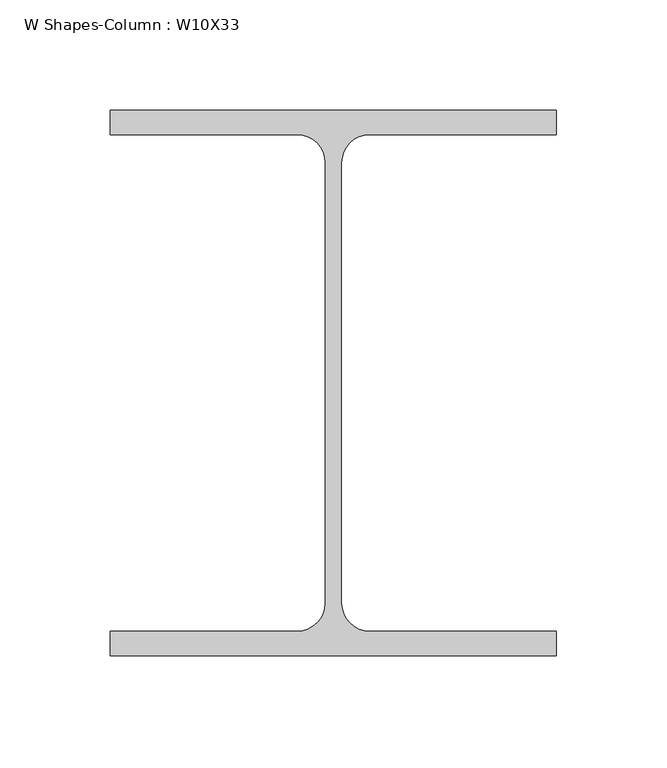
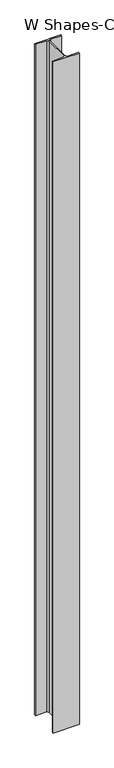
"""IFC4 building model written with IfcOpenShell, lengths in millimetres: column geometry, W Shapes-Column : W10X33."""

import ifcopenshell
import ifcopenshell.guid

model = None  # the IFC model being written
_history = None  # IfcOwnerHistory: only IFC2X3 demands one
_inside = {}  # id of a spatial element -> (the spatial element, [elements in it])
_under = {}  # id of a project, library or spatial element -> (it, [spatial elements below it])
_declared = {}  # id of a project -> (the project, [libraries it declares])
_typed = {}  # id of a type object -> (the type object, [elements of that type])
_made_of = {}  # id of a material, layer set ... -> (it, [elements and type objects made of it])


def new_model(schema):
    """Start an empty IFC model of exactly this schema.

    Asked for "IFC4X3", IfcOpenShell would pick the latest addendum, in which some entities
    have other attributes; the version numbers below select the first issue.
    IFC2X3 requires an IfcOwnerHistory on every rooted entity: one is made here for all.
    """
    global model, _history
    if schema == "IFC4X3":
        model = ifcopenshell.file(schema_version=(4, 3, 0, 0))
    else:
        model = ifcopenshell.file(schema=schema)
    _inside.clear()
    _under.clear()
    _declared.clear()
    _typed.clear()
    _made_of.clear()
    _history = None
    if model.schema == "IFC2X3":
        org = make("IfcOrganization", Name="unknown")
        user = make(
            "IfcPersonAndOrganization",
            ThePerson=make("IfcPerson", FamilyName="unknown"),
            TheOrganization=org,
        )
        app = make(
            "IfcApplication",
            ApplicationDeveloper=org,
            Version="unknown",
            ApplicationFullName="unknown",
            ApplicationIdentifier="unknown",
        )
        _history = make(
            "IfcOwnerHistory",
            OwningUser=user,
            OwningApplication=app,
            ChangeAction="ADDED",
            CreationDate=0,
        )
    return model


def make(cls, **values):
    """One entity of the class cls with the attributes given. An attribute that is None is left unset."""
    return model.create_entity(
        cls, **{name: value for name, value in values.items() if value is not None}
    )


def rooted(cls, **values):
    """An entity with a GlobalId (a new one), such as an element, a storey or a relation."""
    return make(cls, GlobalId=ifcopenshell.guid.new(), OwnerHistory=_history, **values)


def si_unit(unit_type, name, prefix=None):
    """IfcSIUnit, for example si_unit("LENGTHUNIT", "METRE", prefix="MILLI")."""
    return make("IfcSIUnit", UnitType=unit_type, Prefix=prefix, Name=name)


def assignment(units):
    """IfcUnitAssignment: the units of a project."""
    return None if units is None else make("IfcUnitAssignment", Units=units)


def point(xyz):
    """IfcCartesianPoint."""
    return None if xyz is None else make("IfcCartesianPoint", Coordinates=xyz)


def direction(xyz):
    """IfcDirection."""
    return None if xyz is None else make("IfcDirection", DirectionRatios=xyz)


def frame(location, z_axis=None, x_axis=None):
    """IfcAxis2Placement3D, a coordinate frame: its origin and axes. An axis left out is left unset."""
    return make(
        "IfcAxis2Placement3D",
        Location=point(location),
        Axis=direction(z_axis),
        RefDirection=direction(x_axis),
    )


def frame_2d(location, x_axis=None):
    """IfcAxis2Placement2D, a coordinate frame in the plane: its origin and x axis."""
    return make(
        "IfcAxis2Placement2D", Location=point(location), RefDirection=direction(x_axis)
    )


def origin():
    """The frame at (0, 0, 0) with its axes left unset."""
    return frame((0.0, 0.0, 0.0))


def place(relative_to, where):
    """IfcLocalPlacement: puts the frame where relative to a parent placement (None: the world)."""
    return make(
        "IfcLocalPlacement", PlacementRelTo=relative_to, RelativePlacement=where
    )


def context(
    kind, dimensions, precision=None, world=None, true_north=None, identifier=None
):
    """IfcGeometricRepresentationContext, for example the 3D "Model" context."""
    return make(
        "IfcGeometricRepresentationContext",
        ContextIdentifier=identifier,
        ContextType=kind,
        CoordinateSpaceDimension=dimensions,
        Precision=precision,
        WorldCoordinateSystem=world,
        TrueNorth=true_north,
    )


def project(units=None, contexts=None):
    """IfcProject with its units and contexts."""
    return rooted(
        "IfcProject",
        Name="project",
        RepresentationContexts=contexts,
        UnitsInContext=assignment(units),
    )


def spatial(cls, under=None, at=None, **own):
    """A site, building, storey or space (cls), placed at a placement, below another one or the project."""
    s = rooted(cls, ObjectPlacement=at, **own)
    if under is not None:
        _under.setdefault(under.id(), (under, []))[1].append(s)
    return s


def polyline(points):
    """IfcPolyline through the points."""
    return make("IfcPolyline", Points=[point(p) for p in points])


def circle_curve(where, radius):
    """IfcCircle in the frame where."""
    return make("IfcCircle", Position=where, Radius=radius)


def trimmed(basis, trim1, trim2, sense, master):
    """IfcTrimmedCurve: the piece of a basis curve between two trims."""
    return make(
        "IfcTrimmedCurve",
        BasisCurve=basis,
        Trim1=trim1,
        Trim2=trim2,
        SenseAgreement=sense,
        MasterRepresentation=master,
    )


def segment(curve, same_sense, transition):
    """IfcCompositeCurveSegment."""
    return make(
        "IfcCompositeCurveSegment",
        Transition=transition,
        SameSense=same_sense,
        ParentCurve=curve,
    )


def composite_curve(segments, self_intersect=None):
    """IfcCompositeCurve: segments joined end to end."""
    return make("IfcCompositeCurve", Segments=segments, SelfIntersect=self_intersect)


def outline(outer, holes=None, kind="AREA"):
    """IfcArbitraryClosedProfileDef: a profile drawn as a closed curve; with holes, ...WithVoids."""
    if holes is None:
        return make("IfcArbitraryClosedProfileDef", ProfileType=kind, OuterCurve=outer)
    return make(
        "IfcArbitraryProfileDefWithVoids",
        ProfileType=kind,
        OuterCurve=outer,
        InnerCurves=holes,
    )


def extrude(swept, where, along, depth):
    """IfcExtrudedAreaSolid: the profile swept, set in the frame where, extruded along a direction by depth."""
    return make(
        "IfcExtrudedAreaSolid",
        SweptArea=swept,
        Position=where,
        ExtrudedDirection=direction(along),
        Depth=depth,
    )


def shape(context_of_items, identifier, shape_type, items):
    """IfcShapeRepresentation: the items that make up one representation, for example the "Body"."""
    return make(
        "IfcShapeRepresentation",
        ContextOfItems=context_of_items,
        RepresentationIdentifier=identifier,
        RepresentationType=shape_type,
        Items=items,
    )


def source(mapping_origin, context_of_items, identifier, shape_type, items):
    """IfcRepresentationMap: a shape defined once, which mapped items show again and again."""
    return make(
        "IfcRepresentationMap",
        MappingOrigin=mapping_origin,
        MappedRepresentation=shape(context_of_items, identifier, shape_type, items),
    )


def transform(
    local_origin,
    x_axis=None,
    y_axis=None,
    z_axis=None,
    scale=None,
    scale2=None,
    scale3=None,
    uniform=True,
):
    """IfcCartesianTransformationOperator3D, or its non-uniform kind. x_axis, y_axis, z_axis: its Axis1, 2, 3."""
    if uniform:
        return make(
            "IfcCartesianTransformationOperator3D",
            Axis1=direction(x_axis),
            Axis2=direction(y_axis),
            LocalOrigin=point(local_origin),
            Scale=scale,
            Axis3=direction(z_axis),
        )
    return make(
        "IfcCartesianTransformationOperator3DnonUniform",
        Axis1=direction(x_axis),
        Axis2=direction(y_axis),
        LocalOrigin=point(local_origin),
        Scale=scale,
        Axis3=direction(z_axis),
        Scale2=scale2,
        Scale3=scale3,
    )


def mapped(mapping_source, mapping_target):
    """IfcMappedItem: shows the shape of a source again, moved by a transform."""
    return make(
        "IfcMappedItem", MappingSource=mapping_source, MappingTarget=mapping_target
    )


def made_of(thing, what):
    """Note that an element or type object is made of a material, layer set ...; save() writes the relation."""
    if what is not None:
        _made_of.setdefault(what.id(), (what, []))[1].append(thing)
    return thing


def element(
    cls,
    number,
    at=None,
    inside=None,
    cuts=None,
    type_object=None,
    material=None,
    context=None,
    identifier="Body",
    shape_type=None,
    held_by="IfcProductDefinitionShape",
    body=None,
    shapes=None,
    **own,
):
    """One element of the class cls, such as IfcWall. Its Tag is "e" and its number.

    at: its placement. inside: the storey or other place that contains it. cuts: it is an
    opening in that element (IfcRelVoidsElement). A single representation is given by context,
    identifier, shape_type and body (its items); several are given by shapes. held_by: the class
    of the entity that holds the representations. save() writes the other relations.
    """
    e = rooted(cls, Tag="e%d" % number, ObjectPlacement=at, **own)
    if body is not None:
        shapes = [shape(context, identifier, shape_type, body)]
    if shapes is not None:
        e.Representation = make(held_by, Representations=shapes)
    if inside is not None:
        _inside.setdefault(inside.id(), (inside, []))[1].append(e)
    if cuts is not None:
        rooted(
            "IfcRelVoidsElement", RelatingBuildingElement=cuts, RelatedOpeningElement=e
        )
    if type_object is not None:
        _typed.setdefault(type_object.id(), (type_object, []))[1].append(e)
    return made_of(e, material)


def aggregate(whole, parts):
    """IfcRelAggregates: a whole, such as a stair, and the parts it consists of."""
    return rooted("IfcRelAggregates", RelatingObject=whole, RelatedObjects=parts)


def save(model, path):
    """Write the relations noted so far, then the file.

    IfcRelAggregates (storeys below a building ...), IfcRelContainedInSpatialStructure (elements
    in a storey), IfcRelDefinesByType, IfcRelAssociatesMaterial and IfcRelDeclares: one each for
    every whole, place, type object, material and project.
    """
    for whole, parts in _under.values():
        aggregate(whole, parts)
    for where, things in _inside.values():
        rooted(
            "IfcRelContainedInSpatialStructure",
            RelatedElements=things,
            RelatingStructure=where,
        )
    for kind, things in _typed.values():
        rooted("IfcRelDefinesByType", RelatedObjects=things, RelatingType=kind)
    for what, things in _made_of.values():
        rooted("IfcRelAssociatesMaterial", RelatedObjects=things, RelatingMaterial=what)
    for by, libraries in _declared.values():
        rooted("IfcRelDeclares", RelatingContext=by, RelatedDefinitions=libraries)
    model.write(path)


def w_shapes_column_w10x33_39db9c8d(model_context):
    return source(origin(), model_context, "Body", "SweptSolid", [
        extrude(outline(composite_curve([segment(polyline([(101.092, 123.571), (101.092, 112.522), (16.383, 112.522)]), True, "CONTINUOUS"), segment(trimmed(circle_curve(frame_2d((16.383, 99.822)), 12.7), [point((16.383, 112.522))], [point((3.683, 99.822))], True, "CARTESIAN"), True, "CONTINUOUS"), segment(polyline([(3.683, 99.822), (3.683, -99.822)]), True, "CONTINUOUS"), segment(trimmed(circle_curve(frame_2d((16.383, -99.822)), 12.7), [point((3.683, -99.822))], [point((16.383, -112.522))], True, "CARTESIAN"), True, "CONTINUOUS"), segment(polyline([(16.383, -112.522), (101.092, -112.522), (101.092, -123.571), (-101.092, -123.571), (-101.092, -112.522), (-16.383, -112.522)]), True, "CONTINUOUS"), segment(trimmed(circle_curve(frame_2d((-16.383, -99.822)), 12.7), [point((-16.383, -112.522))], [point((-3.683, -99.822))], True, "CARTESIAN"), True, "CONTINUOUS"), segment(polyline([(-3.683, -99.822), (-3.683, 99.822)]), True, "CONTINUOUS"), segment(trimmed(circle_curve(frame_2d((-16.383, 99.822)), 12.7), [point((-3.683, 99.822))], [point((-16.383, 112.522))], True, "CARTESIAN"), True, "CONTINUOUS"), segment(polyline([(-16.383, 112.522), (-101.092, 112.522), (-101.092, 123.571), (101.092, 123.571)]), True, "CONTINUOUS")], self_intersect=False)), frame((0.0, 0.0, -2438.4), z_axis=(0.0, 0.0, 1.0), x_axis=(1.0, 0.0, 0.0)), (0.0, 0.0, 1.0), 5486.4),
    ])


if __name__ == "__main__":
    model = new_model("IFC4")
    model_context = context("Model", 3, world=origin())
    ifc_project = project(units=[si_unit("LENGTHUNIT", "METRE", prefix="MILLI")], contexts=[model_context])
    site = spatial("IfcSite", under=ifc_project)
    building = spatial("IfcBuilding", under=site)
    placement = place(None, origin())
    w_shapes_column_w10x33_shape = w_shapes_column_w10x33_39db9c8d(model_context)
    element("IfcColumn", 1, ObjectType="W Shapes-Column : W10X33", at=placement, inside=building, context=model_context, shape_type="MappedRepresentation", body=[
        mapped(w_shapes_column_w10x33_shape, transform((0.0, 0.0, 0.0), x_axis=(1.0, 0.0, 0.0), y_axis=(0.0, 1.0, 0.0), z_axis=(0.0, 0.0, 1.0))),
    ])
    save(model, "model.ifc")
